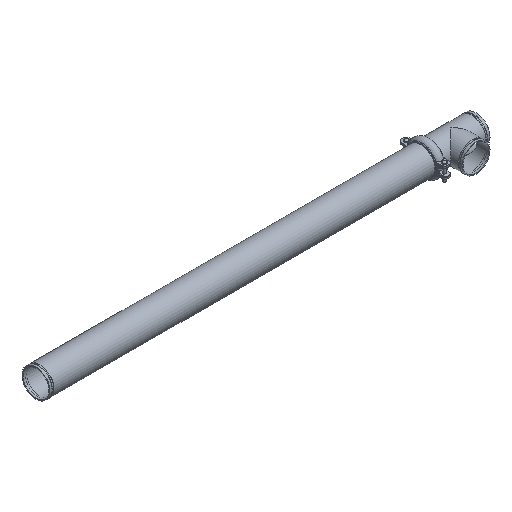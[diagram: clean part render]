
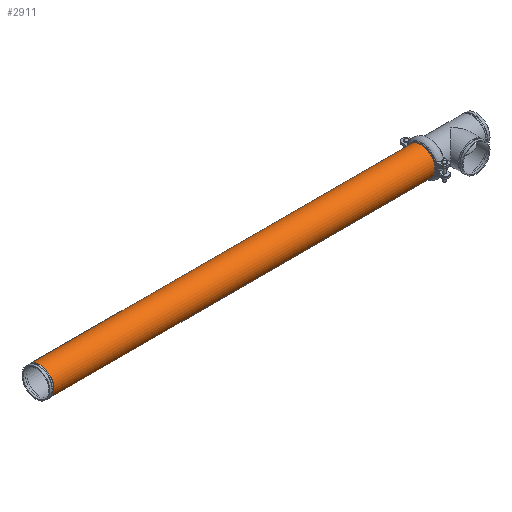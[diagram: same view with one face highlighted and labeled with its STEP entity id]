
A CAD part, isometric view. The second image highlights one B-rep face of the part: STEP entity #2911.
In plain terms, the highlighted cylindrical face has radius 109.537 mm (diameter 219.075 mm), a full revolution.
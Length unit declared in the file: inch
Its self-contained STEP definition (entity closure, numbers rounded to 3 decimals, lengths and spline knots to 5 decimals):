
#375=FACE_OUTER_BOUND('',#556,.T.);
#556=EDGE_LOOP('',(#2502,#2503,#2504,#2505,#2506,#2507));
#741=LINE('',#5691,#918);
#918=VECTOR('',#4162,4.3125);
#1055=CIRCLE('',#3328,4.3125);
#1056=CIRCLE('',#3329,4.3125);
#1057=CIRCLE('',#3331,4.3125);
#1058=CIRCLE('',#3332,4.3125);
#1327=VERTEX_POINT('',#5682);
#1328=VERTEX_POINT('',#5683);
#1329=VERTEX_POINT('',#5687);
#1330=VERTEX_POINT('',#5688);
#1723=EDGE_CURVE('',#1327,#1328,#1055,.T.);
#1724=EDGE_CURVE('',#1328,#1327,#1056,.T.);
#1725=EDGE_CURVE('',#1329,#1330,#1057,.T.);
#1726=EDGE_CURVE('',#1330,#1329,#1058,.T.);
#1727=EDGE_CURVE('',#1330,#1328,#741,.T.);
#2502=ORIENTED_EDGE('',*,*,#1725,.F.);
#2503=ORIENTED_EDGE('',*,*,#1726,.F.);
#2504=ORIENTED_EDGE('',*,*,#1727,.T.);
#2505=ORIENTED_EDGE('',*,*,#1724,.T.);
#2506=ORIENTED_EDGE('',*,*,#1723,.T.);
#2507=ORIENTED_EDGE('',*,*,#1727,.F.);
#2604=CYLINDRICAL_SURFACE('',#3330,4.3125);
#2911=ADVANCED_FACE('',(#375),#2604,.T.);
#3328=AXIS2_PLACEMENT_3D('',#5684,#4152,#4153);
#3329=AXIS2_PLACEMENT_3D('',#5685,#4154,#4155);
#3330=AXIS2_PLACEMENT_3D('',#5686,#4156,#4157);
#3331=AXIS2_PLACEMENT_3D('',#5689,#4158,#4159);
#3332=AXIS2_PLACEMENT_3D('',#5690,#4160,#4161);
#4152=DIRECTION('center_axis',(1.,0.,0.));
#4153=DIRECTION('ref_axis',(0.,0.,-1.));
#4154=DIRECTION('center_axis',(1.,0.,0.));
#4155=DIRECTION('ref_axis',(0.,0.,-1.));
#4156=DIRECTION('center_axis',(1.,0.,0.));
#4157=DIRECTION('ref_axis',(0.,1.,0.));
#4158=DIRECTION('center_axis',(1.,0.,0.));
#4159=DIRECTION('ref_axis',(0.,0.,-1.));
#4160=DIRECTION('center_axis',(1.,0.,0.));
#4161=DIRECTION('ref_axis',(0.,0.,-1.));
#4162=DIRECTION('',(-1.,0.,0.));
#5682=CARTESIAN_POINT('',(-58.781,4.3125,0.));
#5683=CARTESIAN_POINT('',(-58.781,-4.3125,0.));
#5684=CARTESIAN_POINT('Origin',(-58.781,0.,0.));
#5685=CARTESIAN_POINT('Origin',(-58.781,0.,0.));
#5686=CARTESIAN_POINT('Origin',(0.,0.,0.));
#5687=CARTESIAN_POINT('',(58.781,4.3125,0.));
#5688=CARTESIAN_POINT('',(58.781,-4.3125,0.));
#5689=CARTESIAN_POINT('Origin',(58.781,0.,0.));
#5690=CARTESIAN_POINT('Origin',(58.781,0.,0.));
#5691=CARTESIAN_POINT('',(0.,-4.3125,0.));
